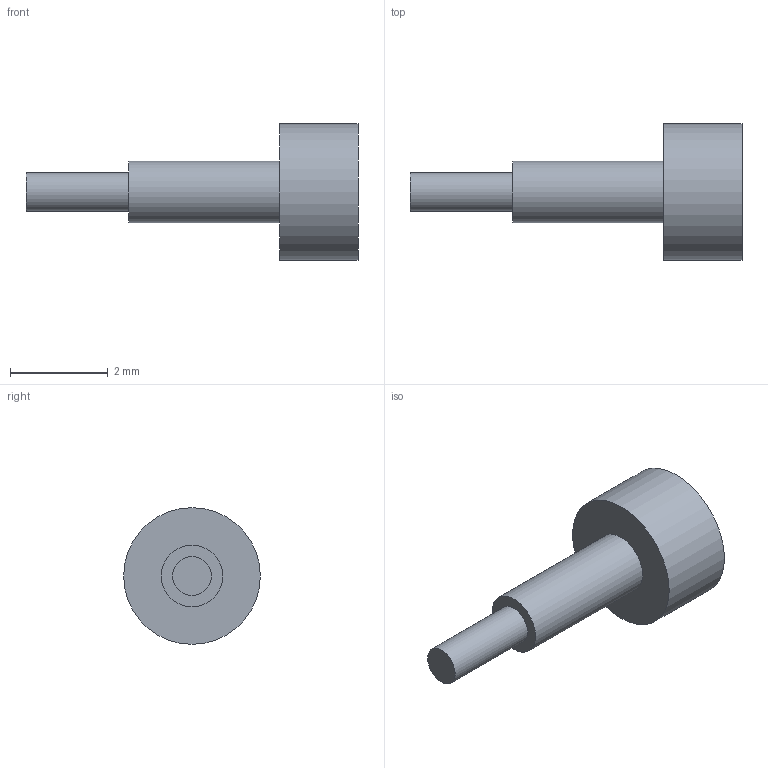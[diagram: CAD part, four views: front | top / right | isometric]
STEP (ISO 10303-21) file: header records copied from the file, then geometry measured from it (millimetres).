
FILE_DESCRIPTION(('Open CASCADE Model'),'2;1');
FILE_NAME('Open CASCADE Shape Model','2026-09-24T17:42:54',('Author'),( 'Open CASCADE'),'Open CASCADE STEP processor 7.8','Open CASCADE 7.8' ,'Unknown');
FILE_SCHEMA(('AUTOMOTIVE_DESIGN { 1 0 10303 214 1 1 1 1 }'));
Length unit declared in the file: millimetre
Products named in the file (1): Open CASCADE STEP translator 7.8 50
Bounding box: 6.8 x 2.8 x 2.8 mm (x, y, z)
Volume: 14.8 mm3; surface area: 43.9 mm2
Topology: 1 solids, 1 shells, 7 faces, 9 edges, 6 vertices
Faces by surface type: plane 4, cylinder 3
Full cylindrical faces by diameter (mm): 0.8 x1, 1.26 x1, 2.8 x1
Entity records: 276 total; most frequent: DIRECTION 49, CARTESIAN_POINT 41, ORIENTED_EDGE 18, PCURVE 18, DEFINITIONAL_REPRESENTATION 18, LINE 15, VECTOR 15, AXIS2_PLACEMENT_3D 14
